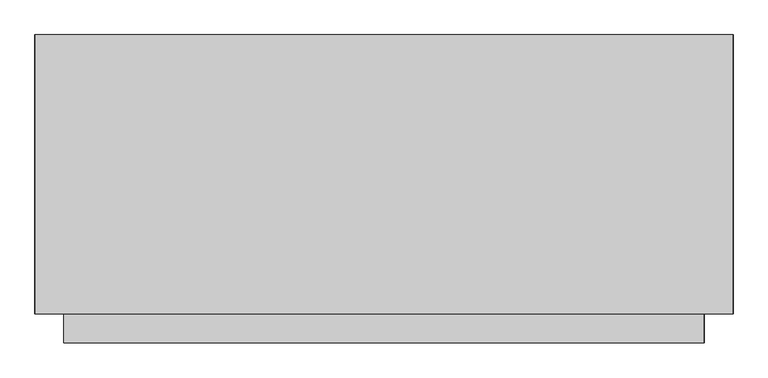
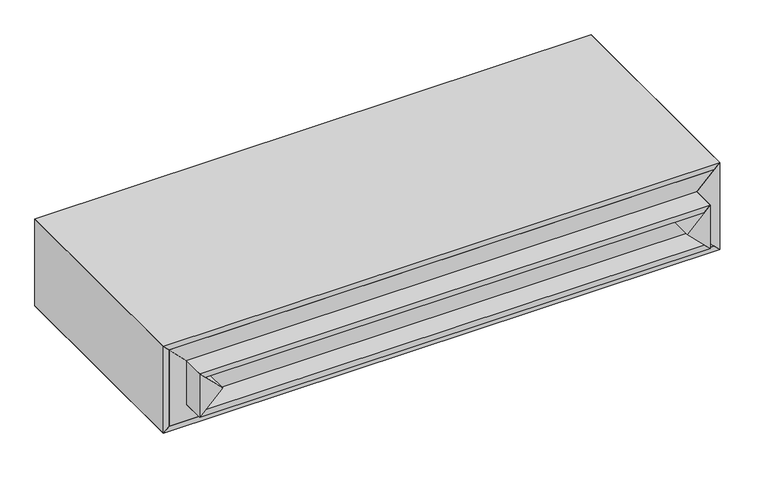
"""IFC4 building model written with IfcOpenShell, lengths in millimetres: proxy geometry, ELEVATE^ADMIN_12x72.5 PLANTER-32in FULL CASE."""

from ifc_helpers import new_model, si_unit, frame, origin, place, context, project, spatial, polyline, outline, extrude, source, transform, mapped, element, save


def generic_models_53eeafc0(model_context):
    return source(origin(), model_context, "Body", "SweptSolid", [
        extrude(outline(polyline([(-76.2, 1612.9), (-152.4, 1689.1), (0.0, 1689.1), (-76.2, 1612.9)])), frame((0.0, 0.0, 0.0), z_axis=(0.0, 1.0, 0.0), x_axis=(0.0, 0.0, 1.0)), (0.0, 0.0, 1.0), 76.2),
        extrude(outline(polyline([(-76.2, 1612.9), (-228.6, 1765.3), (76.2, 1765.3), (-76.2, 1612.9)])), frame((0.0, 76.2, 0.0), z_axis=(0.0, 1.0, 0.0), x_axis=(0.0, 0.0, 1.0)), (0.0, 0.0, 1.0), 736.6),
        extrude(outline(polyline([(0.0, 0.0), (-19.05, 19.05), (-19.05, 1670.05), (0.0, 1689.1), (0.0, 0.0)])), frame((0.0, 0.0, 0.0), z_axis=(0.0, 1.0, 0.0), x_axis=(0.0, 0.0, 1.0)), (0.0, 0.0, 1.0), 76.2),
        extrude(outline(polyline([(1746.25, 584.2), (-57.15, 584.2), (-57.15, 603.25), (1746.25, 603.25), (1746.25, 584.2)])), frame((0.0, 0.0, -209.55), z_axis=(0.0, 0.0, 1.0), x_axis=(1.0, 0.0, 0.0)), (0.0, 0.0, 1.0), 266.7),
        extrude(outline(polyline([(1746.25, 76.2), (-57.15, 76.2), (-57.15, 95.25), (1746.25, 95.25), (1746.25, 76.2)])), frame((0.0, 0.0, -209.55), z_axis=(0.0, 0.0, 1.0), x_axis=(1.0, 0.0, 0.0)), (0.0, 0.0, 1.0), 266.7),
        extrude(outline(polyline([(-228.6, 1765.3), (-209.55, 1746.25), (-209.55, -57.15), (-228.6, -76.2), (-228.6, 1765.3)])), frame((0.0, 76.2, 0.0), z_axis=(0.0, 1.0, 0.0), x_axis=(0.0, 0.0, 1.0)), (0.0, 0.0, 1.0), 736.6),
        extrude(outline(polyline([(-76.2, 76.2), (0.0, 0.0), (-152.4, 0.0), (-76.2, 76.2)])), frame((0.0, 0.0, 0.0), z_axis=(0.0, 1.0, 0.0), x_axis=(0.0, 0.0, 1.0)), (0.0, 0.0, 1.0), 76.2),
        extrude(outline(polyline([(-76.2, 76.2), (76.2, -76.2), (-228.6, -76.2), (-76.2, 76.2)])), frame((0.0, 76.2, 0.0), z_axis=(0.0, 1.0, 0.0), x_axis=(0.0, 0.0, 1.0)), (0.0, 0.0, 1.0), 736.6),
        extrude(outline(polyline([(-152.4, 0.0), (-152.4, 1689.1), (-133.35, 1670.05), (-133.35, 19.05), (-152.4, 0.0)])), frame((0.0, 0.0, 0.0), z_axis=(0.0, 1.0, 0.0), x_axis=(0.0, 0.0, 1.0)), (0.0, 0.0, 1.0), 76.2),
        extrude(outline(polyline([(76.2, 1765.3), (76.2, -76.2), (57.15, -57.15), (57.15, 1746.25), (76.2, 1765.3)])), frame((0.0, 76.2, 0.0), z_axis=(0.0, 1.0, 0.0), x_axis=(0.0, 0.0, 1.0)), (0.0, 0.0, 1.0), 736.6),
    ])


if __name__ == "__main__":
    model = new_model("IFC4")
    model_context = context("Model", 3, world=origin())
    ifc_project = project(units=[si_unit("LENGTHUNIT", "METRE", prefix="MILLI")], contexts=[model_context])
    site = spatial("IfcSite", under=ifc_project)
    building = spatial("IfcBuilding", under=site)
    placement = place(None, origin())
    generic_models_shape = generic_models_53eeafc0(model_context)
    element("IfcBuildingElementProxy", 1, Name="ELEVATE^ADMIN_12x72.5 PLANTER-32in FULL CASE", ObjectType="ELEVATE^ADMIN_12x72.5 PLANTER-32in FULL CASE", at=placement, inside=building, context=model_context, shape_type="MappedRepresentation", body=[
        mapped(generic_models_shape, transform((0.0, 0.0, 0.0), x_axis=(1.0, 0.0, 0.0), y_axis=(0.0, 1.0, 0.0), z_axis=(0.0, 0.0, 1.0))),
    ])
    save(model, "model.ifc")
